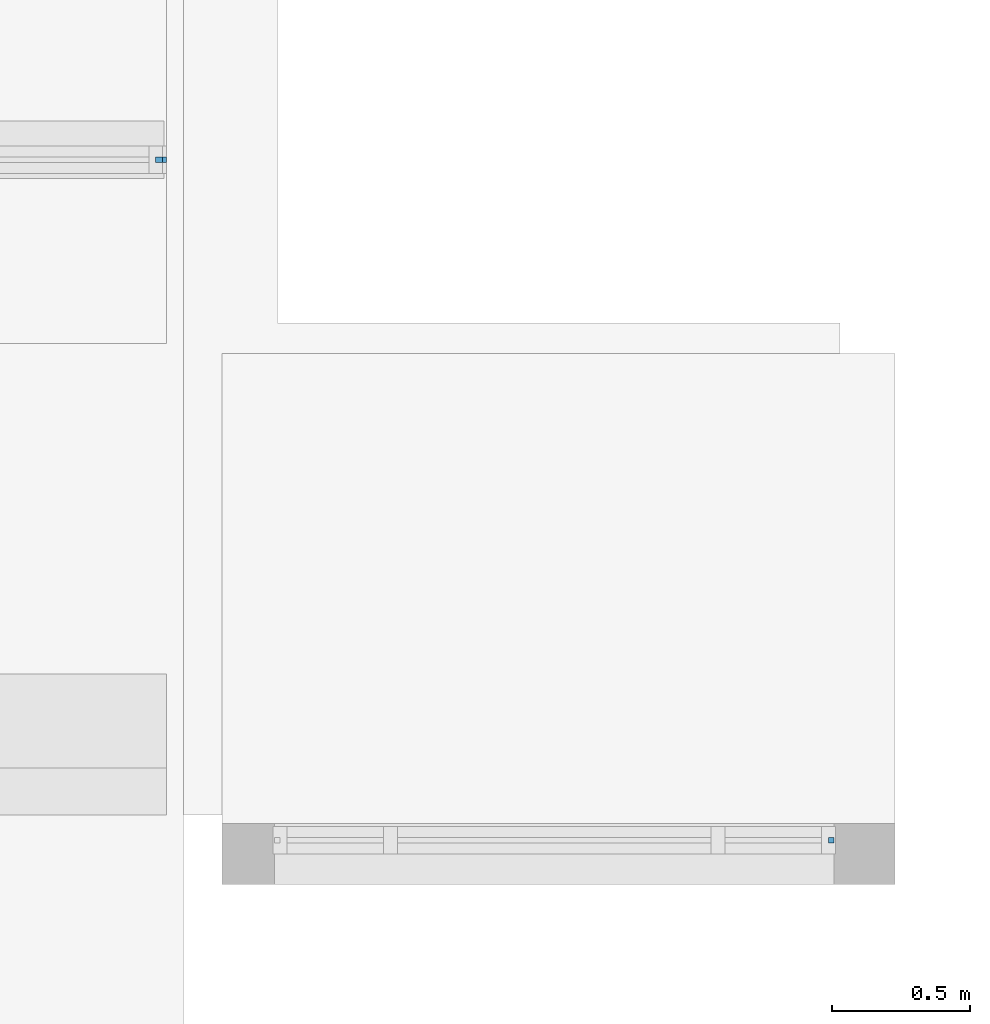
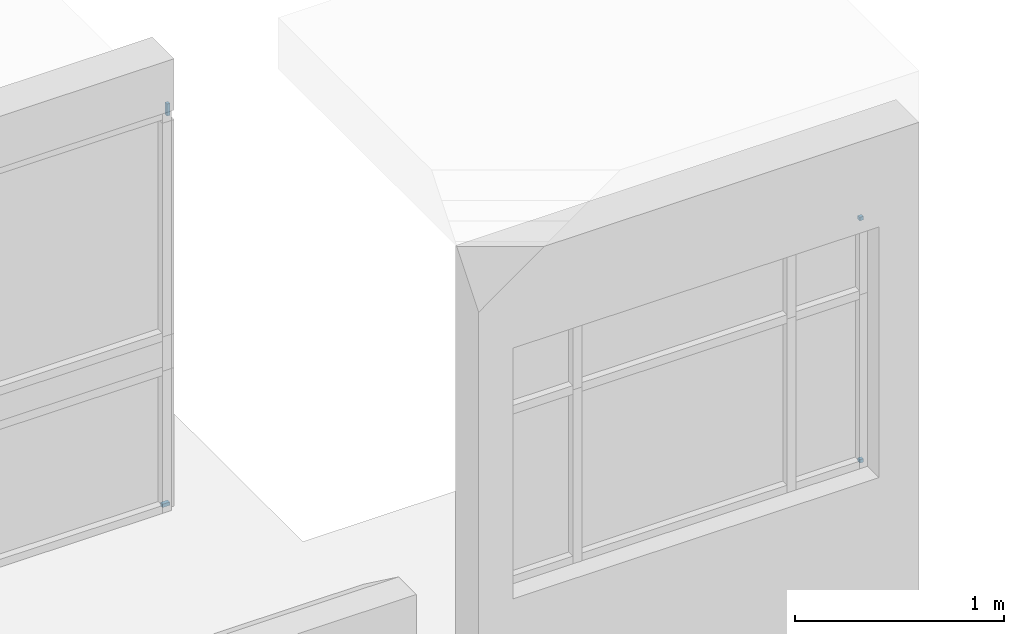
# One storey, part 117 of 153: 4 plates, 2 elements without a shape of their own.
"""IFC4 building model written with IfcOpenShell, lengths in metres."""

from ifc_helpers import new_model, entity, si_unit, converted_unit, derived_unit, direction, frame, origin, place, context, subcontext, project, spatial, indexed_curve, outline, extrude, source, transform, mapped, material, type_object, type_shapes, element, aggregate, save


model = new_model("IFC4")

# Units and contexts
model_context = context("Model", 3, precision=1e-05, world=origin(), true_north=direction((6.123031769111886e-17, 1.0)))
body_context = subcontext(model_context, "Body", "Model", "MODEL_VIEW")
ifc_project = project(units=[si_unit("LENGTHUNIT", "METRE"), si_unit("AREAUNIT", "SQUARE_METRE"), si_unit("VOLUMEUNIT", "CUBIC_METRE"), converted_unit("PLANEANGLEUNIT", "DEGREE", entity("IfcRatioMeasure", 0.017453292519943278), si_unit("PLANEANGLEUNIT", "RADIAN"), dimensions=[0, 0, 0, 0, 0, 0, 0]), si_unit("MASSUNIT", "GRAM", prefix="KILO"), derived_unit("MASSDENSITYUNIT", [(si_unit("MASSUNIT", "GRAM", prefix="KILO"), 1), (si_unit("LENGTHUNIT", "METRE"), -3)]), derived_unit("MOMENTOFINERTIAUNIT", [(si_unit("LENGTHUNIT", "METRE"), 4)]), si_unit("TIMEUNIT", "SECOND"), si_unit("FREQUENCYUNIT", "HERTZ"), si_unit("THERMODYNAMICTEMPERATUREUNIT", "DEGREE_CELSIUS"), derived_unit("THERMALTRANSMITTANCEUNIT", [(si_unit("MASSUNIT", "GRAM", prefix="KILO"), 1), (si_unit("THERMODYNAMICTEMPERATUREUNIT", "KELVIN"), -1), (si_unit("TIMEUNIT", "SECOND"), -3)]), derived_unit("VOLUMETRICFLOWRATEUNIT", [(si_unit("LENGTHUNIT", "METRE"), 3), (si_unit("TIMEUNIT", "SECOND"), -1)]), derived_unit("MASSFLOWRATEUNIT", [(si_unit("MASSUNIT", "GRAM", prefix="KILO"), 1), (si_unit("TIMEUNIT", "SECOND"), -1)]), derived_unit("ROTATIONALFREQUENCYUNIT", [(si_unit("TIMEUNIT", "SECOND"), -1)]), si_unit("ELECTRICCURRENTUNIT", "AMPERE"), si_unit("ELECTRICVOLTAGEUNIT", "VOLT"), si_unit("POWERUNIT", "WATT"), si_unit("FORCEUNIT", "NEWTON", prefix="KILO"), si_unit("ILLUMINANCEUNIT", "LUX"), si_unit("LUMINOUSFLUXUNIT", "LUMEN"), si_unit("LUMINOUSINTENSITYUNIT", "CANDELA"), derived_unit("USERDEFINED", [(si_unit("MASSUNIT", "GRAM", prefix="KILO"), -1), (si_unit("LENGTHUNIT", "METRE"), -2), (si_unit("TIMEUNIT", "SECOND"), 3), (si_unit("LUMINOUSFLUXUNIT", "LUMEN"), 1)]), derived_unit("SOUNDPOWERUNIT", [(si_unit("MASSUNIT", "GRAM", prefix="KILO"), 1), (si_unit("LENGTHUNIT", "METRE"), 2), (si_unit("TIMEUNIT", "SECOND"), -3)]), derived_unit("SOUNDPRESSUREUNIT", [(si_unit("MASSUNIT", "GRAM", prefix="KILO"), 1), (si_unit("LENGTHUNIT", "METRE"), -1), (si_unit("TIMEUNIT", "SECOND"), -2)]), derived_unit("LINEARVELOCITYUNIT", [(si_unit("LENGTHUNIT", "METRE"), 1), (si_unit("TIMEUNIT", "SECOND"), -1)]), si_unit("PRESSUREUNIT", "PASCAL"), derived_unit("USERDEFINED", [(si_unit("LENGTHUNIT", "METRE"), -2), (si_unit("MASSUNIT", "GRAM", prefix="KILO"), 1), (si_unit("TIMEUNIT", "SECOND"), -2)]), derived_unit("LINEARFORCEUNIT", [(si_unit("MASSUNIT", "GRAM", prefix="KILO"), 1), (si_unit("LENGTHUNIT", "METRE"), 1), (si_unit("TIMEUNIT", "SECOND"), -2), (si_unit("LENGTHUNIT", "METRE"), -1)]), derived_unit("PLANARFORCEUNIT", [(si_unit("MASSUNIT", "GRAM", prefix="KILO"), 1), (si_unit("LENGTHUNIT", "METRE"), 1), (si_unit("TIMEUNIT", "SECOND"), -2), (si_unit("LENGTHUNIT", "METRE"), -2)])], contexts=[model_context])

# Site, building, storey
site_placement = place(None, origin())
site = spatial("IfcSite", under=ifc_project, at=site_placement, Name="Superficie", CompositionType="ELEMENT")
building_placement = place(site_placement, origin())
building = spatial("IfcBuilding", under=site, at=building_placement, CompositionType="ELEMENT")
storey_placement = place(building_placement, frame((0.0, 0.0, 3.5999999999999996)))
storey = spatial("IfcBuildingStorey", under=building, at=storey_placement, Name="Nivel 1", CompositionType="ELEMENT", Elevation=3.5999999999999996)

# Curtain wall, plates
curtain_wall_type = type_object("IfcCurtainWallType", Name="Muro cortina:Muro cortina - simple", PredefinedType="NOTDEFINED")
curtain_wall_1_placement = place(storey_placement, frame((0.0, 0.0, -3.5999999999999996)))
curtain_wall_1 = element("IfcCurtainWall", 1, at=curtain_wall_1_placement, inside=storey, type_object=curtain_wall_type, Name="Muro cortina:Muro cortina - simple", ObjectType="Muro cortina:Muro cortina - simple", PredefinedType="NOTDEFINED")
ifc_material = material(Name="Cristal", Category="Vidrio")
plate_type_1 = type_object("IfcPlateType", Name="Panel de sistema:Acristalado", PredefinedType="CURTAIN_PANEL", material=ifc_material)
shared_shape_1 = source(origin(), body_context, "Body", "SweptSolid", [
    extrude(outline(indexed_curve([(-0.01, -0.009999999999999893), (0.01, -0.009999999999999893), (0.01, 0.009999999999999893), (-0.01, 0.009999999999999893), (-0.01, -0.009999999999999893)], self_intersect=False)), frame((0.0, 0.0, 0.0), z_axis=(0.0, 0.0, 1.0), x_axis=(0.0, 1.0, 0.0)), (0.0, 0.0, 1.0), 0.02000000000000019),
])
type_shapes(plate_type_1, [shared_shape_1])
plate_1_placement = place(curtain_wall_1_placement, frame((22.991001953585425, -3.4241708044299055, 4.5), z_axis=(0.0, 0.0, 1.0), x_axis=(-1.0, 0.0, 0.0)))
plate_1 = element("IfcPlate", 2, at=plate_1_placement, type_object=plate_type_1, material=ifc_material, Name="Panel de sistema:Acristalado", ObjectType="Panel de sistema:Acristalado", PredefinedType="CURTAIN_PANEL", context=body_context, shape_type="MappedRepresentation", body=[
    mapped(shared_shape_1, transform((0.0, 0.0, 0.0), scale=1.0)),
])
plate_2_placement = place(curtain_wall_1_placement, frame((22.991001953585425, -3.4241708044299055, 5.916385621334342), z_axis=(0.0, 0.0, 1.0), x_axis=(-1.0, 0.0, 0.0)))
plate_2 = element("IfcPlate", 3, at=plate_2_placement, type_object=plate_type_1, material=ifc_material, Name="Panel de sistema:Acristalado", ObjectType="Panel de sistema:Acristalado", PredefinedType="CURTAIN_PANEL", context=body_context, shape_type="MappedRepresentation", body=[
    mapped(shared_shape_1, transform((0.0, 0.0, 0.0), scale=1.0)),
])
aggregate(curtain_wall_1, [plate_1, plate_2])

curtain_wall_2_placement = place(storey_placement, frame((0.0, 0.0, -3.5999999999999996)))
curtain_wall_2 = element("IfcCurtainWall", 4, at=curtain_wall_2_placement, inside=storey, type_object=curtain_wall_type, Name="Muro cortina:Muro cortina - simple", ObjectType="Muro cortina:Muro cortina - simple", PredefinedType="NOTDEFINED")
plate_type_2 = type_object("IfcPlateType", Name="Panel de sistema:Acristalado", PredefinedType="CURTAIN_PANEL", material=ifc_material)
shared_shape_2 = source(origin(), body_context, "Body", "SweptSolid", [
    extrude(outline(indexed_curve([(-0.01, -0.019999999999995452), (0.01, -0.019999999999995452), (0.01, 0.019999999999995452), (-0.01, 0.019999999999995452), (-0.01, -0.019999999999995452)], self_intersect=False)), frame((0.0, 0.0, 0.0), z_axis=(0.0, 0.0, 1.0), x_axis=(0.0, 1.0, 0.0)), (0.0, 0.0, 1.0), 0.019999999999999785),
])
type_shapes(plate_type_2, [shared_shape_2])
plate_3_placement = place(curtain_wall_2_placement, frame((20.56679901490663, -0.9636067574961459, 3.5999999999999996)))
plate_3 = element("IfcPlate", 5, at=plate_3_placement, type_object=plate_type_2, material=ifc_material, Name="Panel de sistema:Acristalado", ObjectType="Panel de sistema:Acristalado", PredefinedType="CURTAIN_PANEL", context=body_context, shape_type="MappedRepresentation", body=[
    mapped(shared_shape_2, transform((0.0, 0.0, 0.0), scale=1.0)),
])
plate_type_3 = type_object("IfcPlateType", Name="Panel de sistema:Acristalado", PredefinedType="CURTAIN_PANEL", material=ifc_material)
shared_shape_3 = source(origin(), body_context, "Body", "SweptSolid", [
    extrude(outline(indexed_curve([(-0.01, -0.0074999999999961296), (0.01, -0.0074999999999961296), (0.01, 0.0074999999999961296), (-0.01, 0.0074999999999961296), (-0.01, -0.0074999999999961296)], self_intersect=False)), frame((0.0, 0.0, 0.0), z_axis=(0.0, 0.0, 1.0), x_axis=(0.0, 1.0, 0.0)), (0.0, 0.0, 1.0), 0.07000000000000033),
])
type_shapes(plate_type_3, [shared_shape_3])
plate_4_placement = place(curtain_wall_2_placement, frame((20.579299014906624, -0.9636067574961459, 5.879999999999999)))
plate_4 = element("IfcPlate", 6, at=plate_4_placement, type_object=plate_type_3, material=ifc_material, Name="Panel de sistema:Acristalado", ObjectType="Panel de sistema:Acristalado", PredefinedType="CURTAIN_PANEL", context=body_context, shape_type="MappedRepresentation", body=[
    mapped(shared_shape_3, transform((0.0, 0.0, 0.0), scale=1.0)),
])
aggregate(curtain_wall_2, [plate_3, plate_4])

save(model, "model.ifc")
